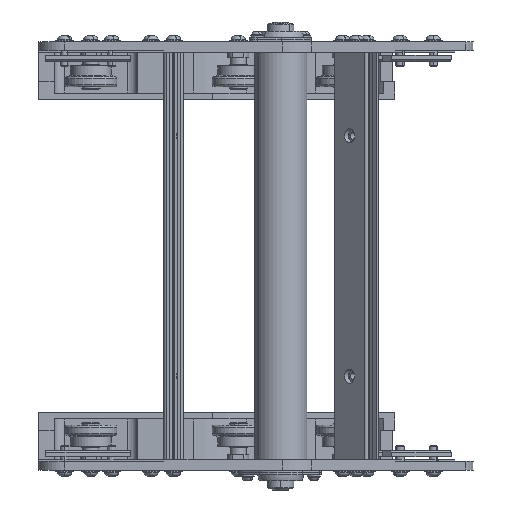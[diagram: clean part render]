
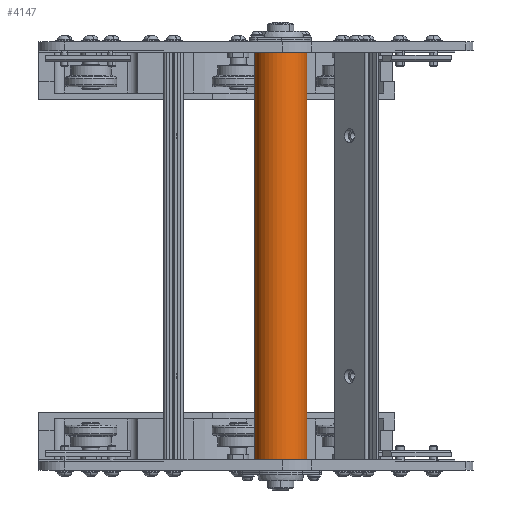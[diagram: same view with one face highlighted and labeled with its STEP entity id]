
A CAD part, front view. The second image highlights one B-rep face of the part: STEP entity #4147.
In plain terms, the highlighted cylindrical face has radius 25 mm (diameter 50 mm), a partial arc.
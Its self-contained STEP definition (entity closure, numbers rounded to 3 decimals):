
#108 = VERTEX_POINT ( 'NONE', #10208 ) ;
#892 = VERTEX_POINT ( 'NONE', #16437 ) ;
#1791 = CYLINDRICAL_SURFACE ( 'NONE', #16597, 25. ) ;
#2218 = CARTESIAN_POINT ( 'NONE',  ( 0., 0., 197. ) ) ;
#3905 = DIRECTION ( 'NONE',  ( 0., 0., -1. ) ) ;
#3936 = DIRECTION ( 'NONE',  ( -1., 0., 0. ) ) ;
#4147 = ADVANCED_FACE ( 'NONE', ( #11514 ), #1791, .T. ) ;
#7366 = CARTESIAN_POINT ( 'NONE',  ( 0., 0., -197. ) ) ;
#7657 = LINE ( 'NONE', #12597, #11418 ) ;
#7787 = ORIENTED_EDGE ( 'NONE', *, *, #8102, .F. ) ;
#8088 = VECTOR ( 'NONE', #20152, 1000. ) ;
#8102 = EDGE_CURVE ( 'NONE', #892, #12558, #17219, .T. ) ;
#9072 = CARTESIAN_POINT ( 'NONE',  ( 0., 0., -197. ) ) ;
#9153 = DIRECTION ( 'NONE',  ( -1., 0., 0. ) ) ;
#9466 = LINE ( 'NONE', #10068, #8088 ) ;
#10068 = CARTESIAN_POINT ( 'NONE',  ( -25., 0., -197. ) ) ;
#10135 = ORIENTED_EDGE ( 'NONE', *, *, #17534, .T. ) ;
#10208 = CARTESIAN_POINT ( 'NONE',  ( -25., 0., 197. ) ) ;
#10481 = ORIENTED_EDGE ( 'NONE', *, *, #16354, .T. ) ;
#11418 = VECTOR ( 'NONE', #21160, 1000. ) ;
#11514 = FACE_OUTER_BOUND ( 'NONE', #13109, .T. ) ;
#12558 = VERTEX_POINT ( 'NONE', #20105 ) ;
#12560 = DIRECTION ( 'NONE',  ( 0., 0., -1. ) ) ;
#12597 = CARTESIAN_POINT ( 'NONE',  ( 25., 0., -197. ) ) ;
#13109 = EDGE_LOOP ( 'NONE', ( #20098, #7787, #10135, #10481 ) ) ;
#14560 = VERTEX_POINT ( 'NONE', #16907 ) ;
#16101 = DIRECTION ( 'NONE',  ( 1., 0., 0. ) ) ;
#16354 = EDGE_CURVE ( 'NONE', #14560, #108, #20624, .T. ) ;
#16437 = CARTESIAN_POINT ( 'NONE',  ( 25., 0., -197. ) ) ;
#16597 = AXIS2_PLACEMENT_3D ( 'NONE', #9072, #17827, #16101 ) ;
#16907 = CARTESIAN_POINT ( 'NONE',  ( 25., 0., 197. ) ) ;
#17219 = CIRCLE ( 'NONE', #20215, 25. ) ;
#17534 = EDGE_CURVE ( 'NONE', #892, #14560, #7657, .T. ) ;
#17827 = DIRECTION ( 'NONE',  ( 0., 0., 1. ) ) ;
#19513 = AXIS2_PLACEMENT_3D ( 'NONE', #2218, #3905, #9153 ) ;
#20098 = ORIENTED_EDGE ( 'NONE', *, *, #22014, .F. ) ;
#20105 = CARTESIAN_POINT ( 'NONE',  ( -25., 0., -197. ) ) ;
#20152 = DIRECTION ( 'NONE',  ( 0., 0., 1. ) ) ;
#20215 = AXIS2_PLACEMENT_3D ( 'NONE', #7366, #12560, #3936 ) ;
#20624 = CIRCLE ( 'NONE', #19513, 25. ) ;
#21160 = DIRECTION ( 'NONE',  ( 0., 0., 1. ) ) ;
#22014 = EDGE_CURVE ( 'NONE', #12558, #108, #9466, .T. ) ;
